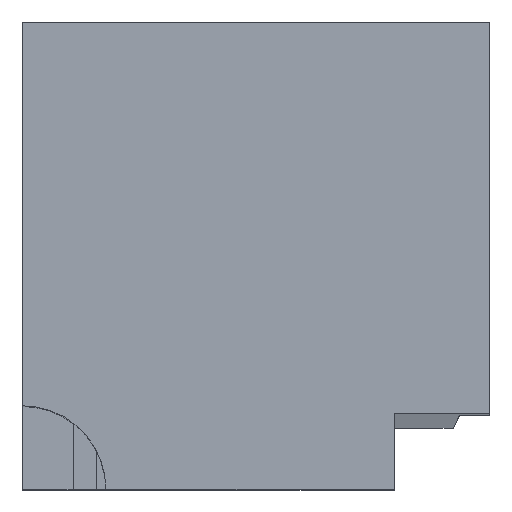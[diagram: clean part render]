
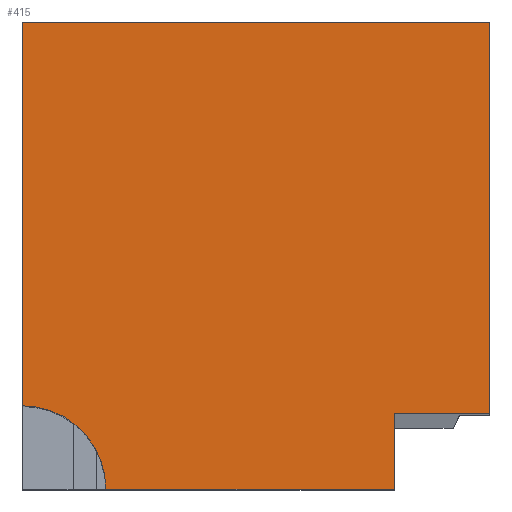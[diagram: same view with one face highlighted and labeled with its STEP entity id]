
A CAD part, top view. The second image highlights one B-rep face of the part: STEP entity #415.
In plain terms, the highlighted planar face has unit normal (0, 0, 1).
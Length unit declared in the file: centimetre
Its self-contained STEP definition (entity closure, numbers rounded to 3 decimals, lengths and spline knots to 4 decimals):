
#23 = PLANE ( 'NONE',  #446 ) ;
#38 = VERTEX_POINT ( 'NONE', #777 ) ;
#67 = CARTESIAN_POINT ( 'NONE',  ( 178.574, 0., 1000. ) ) ;
#71 = ORIENTED_EDGE ( 'NONE', *, *, #755, .T. ) ;
#73 = DIRECTION ( 'NONE',  ( 0., -1., 0. ) ) ;
#102 = DIRECTION ( 'NONE',  ( 1., 0., 0. ) ) ;
#129 = ORIENTED_EDGE ( 'NONE', *, *, #727, .T. ) ;
#136 = VERTEX_POINT ( 'NONE', #346 ) ;
#138 = DIRECTION ( 'NONE',  ( 1., 0., 0. ) ) ;
#140 = DIRECTION ( 'NONE',  ( -1., 0., 0. ) ) ;
#151 = VERTEX_POINT ( 'NONE', #374 ) ;
#161 = CARTESIAN_POINT ( 'NONE',  ( 1000., 1000., 1000. ) ) ;
#165 = VECTOR ( 'NONE', #138, 100. ) ;
#170 = EDGE_CURVE ( 'NONE', #750, #38, #274, .T. ) ;
#173 = FACE_OUTER_BOUND ( 'NONE', #278, .T. ) ;
#176 = CARTESIAN_POINT ( 'NONE',  ( 795.8154, 162.5944, 1000. ) ) ;
#196 = VECTOR ( 'NONE', #353, 100. ) ;
#229 = DIRECTION ( 'NONE',  ( 1., 0., 0. ) ) ;
#235 = LINE ( 'NONE', #383, #884 ) ;
#245 = ORIENTED_EDGE ( 'NONE', *, *, #886, .F. ) ;
#251 = DIRECTION ( 'NONE',  ( 0., -1., 0. ) ) ;
#255 = VECTOR ( 'NONE', #140, 100. ) ;
#274 = LINE ( 'NONE', #668, #165 ) ;
#278 = EDGE_LOOP ( 'NONE', ( #309, #419, #71, #129, #245, #357, #693 ) ) ;
#288 = CARTESIAN_POINT ( 'NONE',  ( 0., 1000., 1000. ) ) ;
#309 = ORIENTED_EDGE ( 'NONE', *, *, #631, .T. ) ;
#328 = EDGE_CURVE ( 'NONE', #151, #729, #545, .T. ) ;
#346 = CARTESIAN_POINT ( 'NONE',  ( 0., 178.574, 1000. ) ) ;
#353 = DIRECTION ( 'NONE',  ( 1., 0., 0. ) ) ;
#357 = ORIENTED_EDGE ( 'NONE', *, *, #170, .T. ) ;
#374 = CARTESIAN_POINT ( 'NONE',  ( 1000., 162.5944, 1000. ) ) ;
#383 = CARTESIAN_POINT ( 'NONE',  ( 795.8154, 0., 1000. ) ) ;
#388 = VERTEX_POINT ( 'NONE', #176 ) ;
#403 = DIRECTION ( 'NONE',  ( 0., 0., 1. ) ) ;
#415 = ADVANCED_FACE ( 'NONE', ( #173 ), #23, .T. ) ;
#419 = ORIENTED_EDGE ( 'NONE', *, *, #328, .T. ) ;
#446 = AXIS2_PLACEMENT_3D ( 'NONE', #783, #403, #102 ) ;
#489 = CIRCLE ( 'NONE', #863, 178.574 ) ;
#545 = LINE ( 'NONE', #161, #867 ) ;
#598 = LINE ( 'NONE', #677, #255 ) ;
#608 = LINE ( 'NONE', #288, #939 ) ;
#631 = EDGE_CURVE ( 'NONE', #388, #151, #805, .T. ) ;
#668 = CARTESIAN_POINT ( 'NONE',  ( 0., 0., 1000. ) ) ;
#677 = CARTESIAN_POINT ( 'NONE',  ( 0., 1000., 1000. ) ) ;
#693 = ORIENTED_EDGE ( 'NONE', *, *, #911, .F. ) ;
#727 = EDGE_CURVE ( 'NONE', #742, #136, #608, .T. ) ;
#729 = VERTEX_POINT ( 'NONE', #916 ) ;
#739 = CARTESIAN_POINT ( 'NONE',  ( 795.8154, 162.5944, 1000. ) ) ;
#742 = VERTEX_POINT ( 'NONE', #746 ) ;
#746 = CARTESIAN_POINT ( 'NONE',  ( 0., 1000., 1000. ) ) ;
#750 = VERTEX_POINT ( 'NONE', #67 ) ;
#755 = EDGE_CURVE ( 'NONE', #729, #742, #598, .T. ) ;
#768 = DIRECTION ( 'NONE',  ( 0., 1., 0. ) ) ;
#777 = CARTESIAN_POINT ( 'NONE',  ( 795.8154, 0., 1000. ) ) ;
#783 = CARTESIAN_POINT ( 'NONE',  ( 0., 0., 1000. ) ) ;
#805 = LINE ( 'NONE', #739, #196 ) ;
#854 = CARTESIAN_POINT ( 'NONE',  ( 0., 0., 1000. ) ) ;
#863 = AXIS2_PLACEMENT_3D ( 'NONE', #854, #917, #229 ) ;
#867 = VECTOR ( 'NONE', #768, 100. ) ;
#884 = VECTOR ( 'NONE', #251, 100. ) ;
#886 = EDGE_CURVE ( 'NONE', #750, #136, #489, .T. ) ;
#911 = EDGE_CURVE ( 'NONE', #388, #38, #235, .T. ) ;
#916 = CARTESIAN_POINT ( 'NONE',  ( 1000., 1000., 1000. ) ) ;
#917 = DIRECTION ( 'NONE',  ( 0., 0., 1. ) ) ;
#939 = VECTOR ( 'NONE', #73, 100. ) ;
